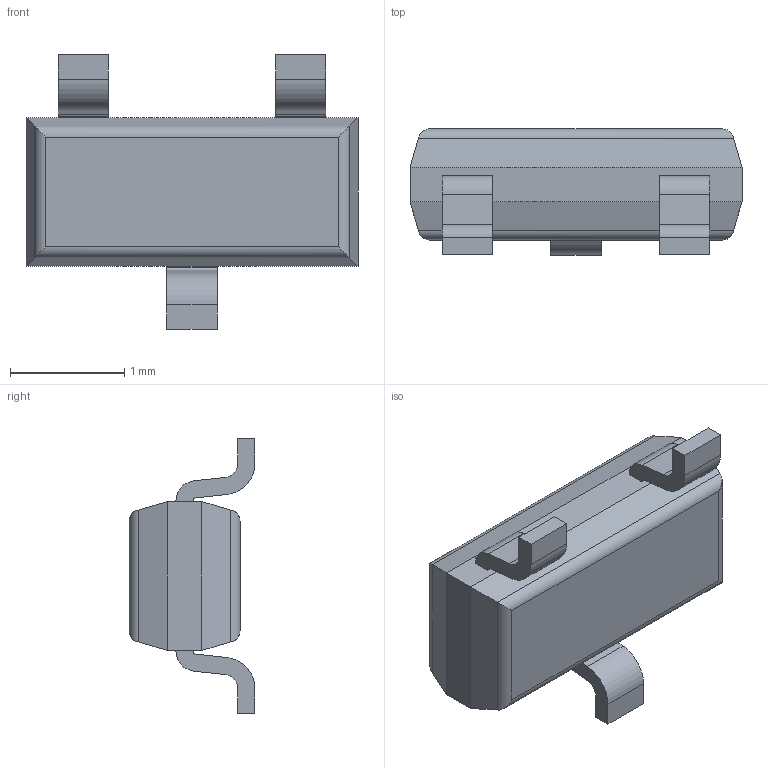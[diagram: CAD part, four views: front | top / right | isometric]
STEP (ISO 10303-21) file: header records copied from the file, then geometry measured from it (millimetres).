
FILE_DESCRIPTION (( 'STEP AP214' ), '1' );
FILE_NAME ( 'SOT95P240X110-3L16.STEP', '2014-04-11T12:31:22', ( '' ), ( '' ), 'FPX Expert 2013', 'PCB Libraries', '' );
FILE_SCHEMA (( 'AUTOMOTIVE_DESIGN' ));
Length unit declared in the file: millimetre
Products named in the file (1): SOT95P240X110-3L16
Bounding box: 2.9 x 1.1 x 2.4 mm (x, y, z)
Volume: 3.5 mm3; surface area: 17.5 mm2
Topology: 4 solids, 4 shells, 67 faces, 158 edges, 100 vertices
Faces by surface type: plane 45, cylinder 20, torus 2
Entity records: 2165 total; most frequent: CARTESIAN_POINT 350, DIRECTION 316, ORIENTED_EDGE 316, EDGE_CURVE 158, VECTOR 120, LINE 120, VERTEX_POINT 100, AXIS2_PLACEMENT_3D 98
